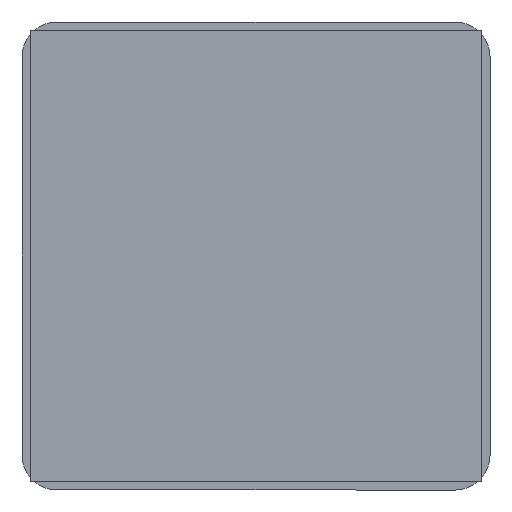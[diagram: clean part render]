
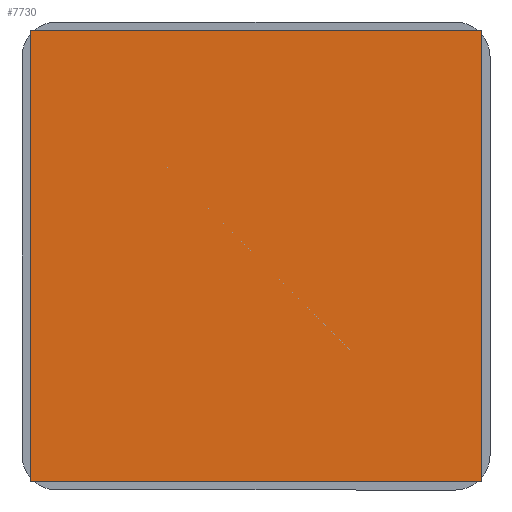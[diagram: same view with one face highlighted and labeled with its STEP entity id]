
A CAD part, front view. The second image highlights one B-rep face of the part: STEP entity #7730.
In plain terms, the highlighted planar face has unit normal (0, -1, 0).
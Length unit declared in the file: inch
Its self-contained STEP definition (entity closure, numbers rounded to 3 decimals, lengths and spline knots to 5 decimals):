
#6 = CARTESIAN_POINT ( 'NONE',  ( -0.84646, -0.005, 0.84646 ) ) ;
#145 = EDGE_CURVE ( 'NONE', #8780, #8991, #8286, .T. ) ;
#184 = CARTESIAN_POINT ( 'NONE',  ( -0.84646, -0.005, -0.84646 ) ) ;
#424 = VERTEX_POINT ( 'NONE', #6459 ) ;
#974 = CARTESIAN_POINT ( 'NONE',  ( -0.84646, -0.005, -0.84646 ) ) ;
#1047 = ORIENTED_EDGE ( 'NONE', *, *, #7995, .F. ) ;
#1169 = DIRECTION ( 'NONE',  ( 0., 0., 1. ) ) ;
#1365 = VECTOR ( 'NONE', #1169, 39.37008 ) ;
#1467 = DIRECTION ( 'NONE',  ( 0., 0., 1. ) ) ;
#1476 = VECTOR ( 'NONE', #9888, 39.37008 ) ;
#2128 = VECTOR ( 'NONE', #3514, 39.37008 ) ;
#2847 = EDGE_LOOP ( 'NONE', ( #5556, #6392, #1047, #8102 ) ) ;
#3249 = LINE ( 'NONE', #974, #6444 ) ;
#3514 = DIRECTION ( 'NONE',  ( 0., 0., -1. ) ) ;
#3562 = CARTESIAN_POINT ( 'NONE',  ( -0.84646, -0.005, 0.84646 ) ) ;
#3813 = PLANE ( 'NONE',  #7760 ) ;
#4340 = VERTEX_POINT ( 'NONE', #5461 ) ;
#4454 = DIRECTION ( 'NONE',  ( 0., 1., 0. ) ) ;
#4810 = EDGE_CURVE ( 'NONE', #8991, #424, #6048, .T. ) ;
#5064 = LINE ( 'NONE', #5850, #2128 ) ;
#5375 = FACE_OUTER_BOUND ( 'NONE', #2847, .T. ) ;
#5427 = CARTESIAN_POINT ( 'NONE',  ( -0.84646, -0.005, 0.84646 ) ) ;
#5461 = CARTESIAN_POINT ( 'NONE',  ( 0.84646, -0.005, -0.84646 ) ) ;
#5556 = ORIENTED_EDGE ( 'NONE', *, *, #145, .F. ) ;
#5850 = CARTESIAN_POINT ( 'NONE',  ( 0.84646, -0.005, -0.84646 ) ) ;
#6001 = CARTESIAN_POINT ( 'NONE',  ( -0.84646, -0.005, -0.84646 ) ) ;
#6048 = LINE ( 'NONE', #3562, #1476 ) ;
#6392 = ORIENTED_EDGE ( 'NONE', *, *, #7677, .F. ) ;
#6419 = DIRECTION ( 'NONE',  ( -1., 0., 0. ) ) ;
#6444 = VECTOR ( 'NONE', #6419, 39.37008 ) ;
#6459 = CARTESIAN_POINT ( 'NONE',  ( 0.84646, -0.005, 0.84646 ) ) ;
#7677 = EDGE_CURVE ( 'NONE', #4340, #8780, #3249, .T. ) ;
#7730 = ADVANCED_FACE ( 'NONE', ( #5375 ), #3813, .F. ) ;
#7760 = AXIS2_PLACEMENT_3D ( 'NONE', #5427, #4454, #1467 ) ;
#7995 = EDGE_CURVE ( 'NONE', #424, #4340, #5064, .T. ) ;
#8102 = ORIENTED_EDGE ( 'NONE', *, *, #4810, .F. ) ;
#8286 = LINE ( 'NONE', #6001, #1365 ) ;
#8780 = VERTEX_POINT ( 'NONE', #184 ) ;
#8991 = VERTEX_POINT ( 'NONE', #6 ) ;
#9888 = DIRECTION ( 'NONE',  ( 1., 0., 0. ) ) ;
